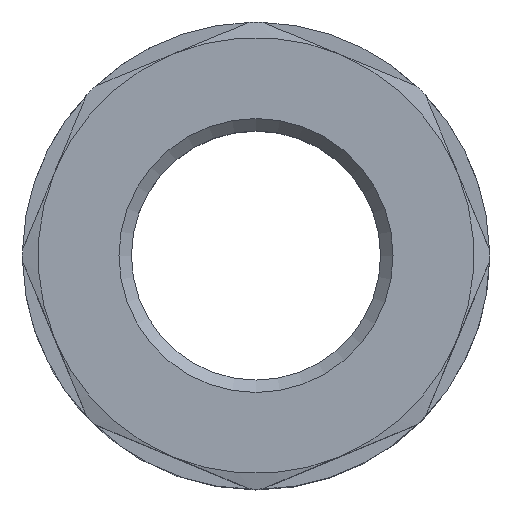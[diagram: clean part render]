
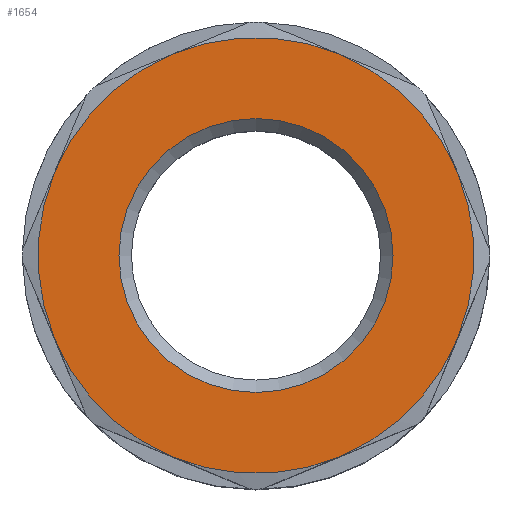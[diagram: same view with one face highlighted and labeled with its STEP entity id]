
A CAD part, top view. The second image highlights one B-rep face of the part: STEP entity #1654.
In plain terms, the highlighted planar face has unit normal (0, 0, 1) as drawn and (0, 1, 0) by its records, which use the part's own axes.
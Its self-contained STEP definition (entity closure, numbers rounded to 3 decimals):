
#810=PLANE('',#1563);
#837=ORIENTED_EDGE('',*,*,#1059,.T.);
#838=ORIENTED_EDGE('',*,*,#1060,.T.);
#839=ORIENTED_EDGE('',*,*,#1061,.F.);
#840=ORIENTED_EDGE('',*,*,#1062,.T.);
#841=ORIENTED_EDGE('',*,*,#1063,.T.);
#842=ORIENTED_EDGE('',*,*,#1064,.T.);
#843=ORIENTED_EDGE('',*,*,#1065,.T.);
#844=ORIENTED_EDGE('',*,*,#1066,.T.);
#845=ORIENTED_EDGE('',*,*,#1058,.T.);
#978=CIRCLE('',#1562,2.2);
#979=CIRCLE('',#1564,3.5);
#980=CIRCLE('',#1565,3.5);
#981=CIRCLE('',#1566,3.5);
#982=CIRCLE('',#1567,3.5);
#983=CIRCLE('',#1568,3.5);
#984=CIRCLE('',#1569,3.5);
#985=CIRCLE('',#1570,3.5);
#986=CIRCLE('',#1571,3.5);
#1010=VERTEX_POINT('',#1410);
#1011=VERTEX_POINT('',#1413);
#1012=VERTEX_POINT('',#1414);
#1013=VERTEX_POINT('',#1416);
#1014=VERTEX_POINT('',#1418);
#1015=VERTEX_POINT('',#1420);
#1016=VERTEX_POINT('',#1422);
#1017=VERTEX_POINT('',#1424);
#1018=VERTEX_POINT('',#1426);
#1058=EDGE_CURVE('',#1010,#1010,#978,.T.);
#1059=EDGE_CURVE('',#1011,#1012,#979,.T.);
#1060=EDGE_CURVE('',#1012,#1013,#980,.T.);
#1061=EDGE_CURVE('',#1014,#1013,#981,.T.);
#1062=EDGE_CURVE('',#1014,#1015,#982,.T.);
#1063=EDGE_CURVE('',#1015,#1016,#983,.T.);
#1064=EDGE_CURVE('',#1016,#1017,#984,.T.);
#1065=EDGE_CURVE('',#1017,#1018,#985,.T.);
#1066=EDGE_CURVE('',#1018,#1011,#986,.T.);
#1133=EDGE_LOOP('',(#837,#838,#839,#840,#841,#842,#843,#844));
#1134=EDGE_LOOP('',(#845));
#1175=FACE_BOUND('',#1133,.T.);
#1176=FACE_BOUND('',#1134,.T.);
#1223=DIRECTION('',(0.,-1.,0.));
#1224=DIRECTION('',(0.,0.,-2.2));
#1225=DIRECTION('',(0.,1.,0.));
#1226=DIRECTION('',(1.,0.,0.));
#1227=DIRECTION('',(0.,1.,0.));
#1228=DIRECTION('',(0.,0.,-3.5));
#1229=DIRECTION('',(0.,1.,0.));
#1230=DIRECTION('',(0.,0.,-3.5));
#1231=DIRECTION('',(0.,-1.,0.));
#1232=DIRECTION('',(0.,0.,3.5));
#1233=DIRECTION('',(0.,1.,0.));
#1234=DIRECTION('',(0.,0.,-3.5));
#1235=DIRECTION('',(0.,1.,0.));
#1236=DIRECTION('',(0.,0.,-3.5));
#1237=DIRECTION('',(0.,1.,0.));
#1238=DIRECTION('',(0.,0.,-3.5));
#1239=DIRECTION('',(0.,1.,0.));
#1240=DIRECTION('',(0.,0.,-3.5));
#1241=DIRECTION('',(0.,1.,0.));
#1242=DIRECTION('',(0.,0.,-3.5));
#1410=CARTESIAN_POINT('',(0.,9.,-2.2));
#1411=CARTESIAN_POINT('',(0.,9.,0.));
#1412=CARTESIAN_POINT('',(3.234,9.,1.339));
#1413=CARTESIAN_POINT('',(1.339,9.,3.234));
#1414=CARTESIAN_POINT('',(3.234,9.,1.339));
#1415=CARTESIAN_POINT('',(0.,9.,0.));
#1416=CARTESIAN_POINT('',(3.234,9.,-1.339));
#1417=CARTESIAN_POINT('',(0.,9.,0.));
#1418=CARTESIAN_POINT('',(1.339,9.,-3.234));
#1419=CARTESIAN_POINT('',(0.,9.,0.));
#1420=CARTESIAN_POINT('',(-1.339,9.,-3.234));
#1421=CARTESIAN_POINT('',(0.,9.,0.));
#1422=CARTESIAN_POINT('',(-3.234,9.,-1.339));
#1423=CARTESIAN_POINT('',(0.,9.,0.));
#1424=CARTESIAN_POINT('',(-3.234,9.,1.339));
#1425=CARTESIAN_POINT('',(0.,9.,0.));
#1426=CARTESIAN_POINT('',(-1.339,9.,3.234));
#1427=CARTESIAN_POINT('',(0.,9.,0.));
#1428=CARTESIAN_POINT('',(0.,9.,0.));
#1562=AXIS2_PLACEMENT_3D('',#1411,#1223,#1224);
#1563=AXIS2_PLACEMENT_3D('',#1412,#1225,#1226);
#1564=AXIS2_PLACEMENT_3D('',#1415,#1227,#1228);
#1565=AXIS2_PLACEMENT_3D('',#1417,#1229,#1230);
#1566=AXIS2_PLACEMENT_3D('',#1419,#1231,#1232);
#1567=AXIS2_PLACEMENT_3D('',#1421,#1233,#1234);
#1568=AXIS2_PLACEMENT_3D('',#1423,#1235,#1236);
#1569=AXIS2_PLACEMENT_3D('',#1425,#1237,#1238);
#1570=AXIS2_PLACEMENT_3D('',#1427,#1239,#1240);
#1571=AXIS2_PLACEMENT_3D('',#1428,#1241,#1242);
#1654=ADVANCED_FACE('',(#1175,#1176),#810,.T.);
